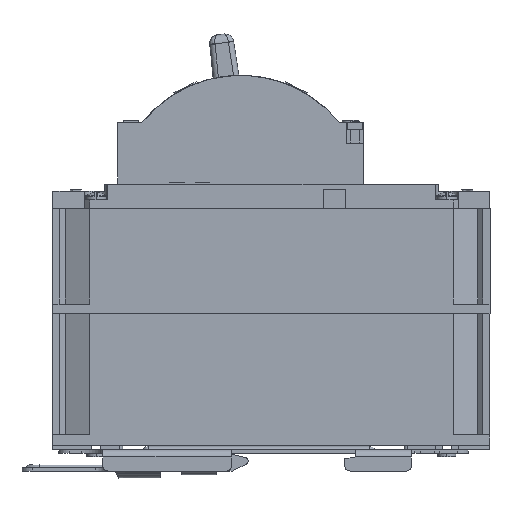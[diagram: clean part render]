
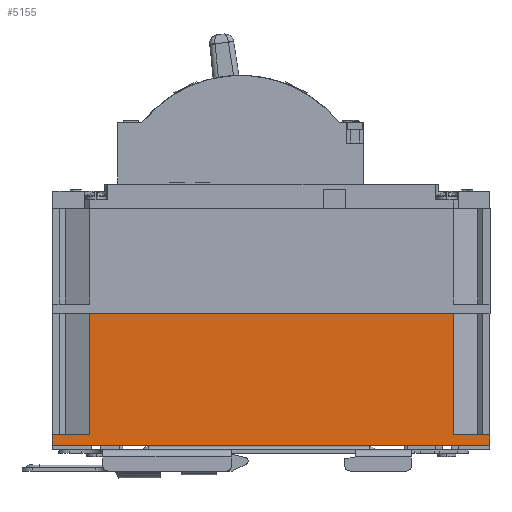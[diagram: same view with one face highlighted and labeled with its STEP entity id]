
A CAD part, left-side view. The second image highlights one B-rep face of the part: STEP entity #5155.
In plain terms, the highlighted planar face has unit normal (1, 0, 0).
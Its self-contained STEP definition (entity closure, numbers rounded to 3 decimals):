
#990 = CARTESIAN_POINT ( 'NONE',  ( -43.25, 63.511, -15.902 ) ) ;
#991 = DIRECTION ( 'NONE',  ( 0., 1., 0. ) ) ;
#992 = DIRECTION ( 'NONE',  ( 1., 0., 0. ) ) ;
#1356 = PLANE ( 'NONE',  #4795 ) ;
#4795 = AXIS2_PLACEMENT_3D ( 'NONE', #990, #992, #991 ) ;
#5155 = ADVANCED_FACE ( 'NONE', ( #34941 ), #1356, .T. ) ;
#34941 = FACE_OUTER_BOUND ( 'NONE', #47506, .T. ) ;
#36137 = CARTESIAN_POINT ( 'NONE',  ( -43.25, -50.589, -15.902 ) ) ;
#36280 = CARTESIAN_POINT ( 'NONE',  ( -43.25, -50.589, -50.402 ) ) ;
#36293 = CARTESIAN_POINT ( 'NONE',  ( -43.25, -61.089, -50.402 ) ) ;
#36294 = CARTESIAN_POINT ( 'NONE',  ( -43.25, -61.089, -53.402 ) ) ;
#36295 = CARTESIAN_POINT ( 'NONE',  ( -43.25, 63.511, -53.402 ) ) ;
#36296 = CARTESIAN_POINT ( 'NONE',  ( -43.25, 63.511, -50.402 ) ) ;
#36297 = CARTESIAN_POINT ( 'NONE',  ( -43.25, 53.011, -50.402 ) ) ;
#36298 = CARTESIAN_POINT ( 'NONE',  ( -43.25, 53.011, -15.902 ) ) ;
#44650 = EDGE_CURVE ( 'NONE', #115097, #115114, #104721, .T. ) ;
#44651 = EDGE_CURVE ( 'NONE', #114811, #115097, #104719, .T. ) ;
#44652 = EDGE_CURVE ( 'NONE', #115114, #115116, #104725, .T. ) ;
#44653 = EDGE_CURVE ( 'NONE', #115116, #115118, #104727, .T. ) ;
#44654 = EDGE_CURVE ( 'NONE', #115118, #115121, #104729, .T. ) ;
#44655 = EDGE_CURVE ( 'NONE', #115121, #115124, #104731, .T. ) ;
#44657 = EDGE_CURVE ( 'NONE', #115124, #115127, #104733, .T. ) ;
#44660 = EDGE_CURVE ( 'NONE', #115127, #114811, #104736, .T. ) ;
#45934 = ORIENTED_EDGE ( 'NONE', *, *, #44650, .T. ) ;
#45936 = ORIENTED_EDGE ( 'NONE', *, *, #44660, .T. ) ;
#45941 = ORIENTED_EDGE ( 'NONE', *, *, #44654, .T. ) ;
#45944 = ORIENTED_EDGE ( 'NONE', *, *, #44652, .T. ) ;
#45945 = ORIENTED_EDGE ( 'NONE', *, *, #44655, .T. ) ;
#45950 = ORIENTED_EDGE ( 'NONE', *, *, #44653, .T. ) ;
#45952 = ORIENTED_EDGE ( 'NONE', *, *, #44657, .T. ) ;
#46241 = ORIENTED_EDGE ( 'NONE', *, *, #44651, .T. ) ;
#47506 = EDGE_LOOP ( 'NONE', ( #46241, #45934, #45944, #45950, #45941, #45945, #45952, #45936 ) ) ;
#104719 = LINE ( 'NONE', #109600, #104726 ) ;
#104721 = LINE ( 'NONE', #109619, #104724 ) ;
#104724 = VECTOR ( 'NONE', #109621, 1000. ) ;
#104725 = LINE ( 'NONE', #109623, #104728 ) ;
#104726 = VECTOR ( 'NONE', #109622, 1000. ) ;
#104727 = LINE ( 'NONE', #109625, #104730 ) ;
#104728 = VECTOR ( 'NONE', #109624, 1000. ) ;
#104729 = LINE ( 'NONE', #109627, #104732 ) ;
#104730 = VECTOR ( 'NONE', #109626, 1000. ) ;
#104731 = LINE ( 'NONE', #109629, #104734 ) ;
#104732 = VECTOR ( 'NONE', #109628, 1000. ) ;
#104733 = LINE ( 'NONE', #109631, #104738 ) ;
#104734 = VECTOR ( 'NONE', #109630, 1000. ) ;
#104736 = LINE ( 'NONE', #109633, #104742 ) ;
#104738 = VECTOR ( 'NONE', #109632, 1000. ) ;
#104742 = VECTOR ( 'NONE', #109634, 1000. ) ;
#109600 = CARTESIAN_POINT ( 'NONE',  ( -43.25, -50.589, -15.902 ) ) ;
#109619 = CARTESIAN_POINT ( 'NONE',  ( -43.25, 63.511, -50.402 ) ) ;
#109621 = DIRECTION ( 'NONE',  ( 0., -1., 0. ) ) ;
#109622 = DIRECTION ( 'NONE',  ( 0., 0., -1. ) ) ;
#109623 = CARTESIAN_POINT ( 'NONE',  ( -43.25, -61.089, -15.902 ) ) ;
#109624 = DIRECTION ( 'NONE',  ( 0., 0., -1. ) ) ;
#109625 = CARTESIAN_POINT ( 'NONE',  ( -43.25, 63.511, -53.402 ) ) ;
#109626 = DIRECTION ( 'NONE',  ( 0., 1., 0. ) ) ;
#109627 = CARTESIAN_POINT ( 'NONE',  ( -43.25, 63.511, -15.902 ) ) ;
#109628 = DIRECTION ( 'NONE',  ( 0., 0., 1. ) ) ;
#109629 = CARTESIAN_POINT ( 'NONE',  ( -43.25, 63.511, -50.402 ) ) ;
#109630 = DIRECTION ( 'NONE',  ( 0., -1., 0. ) ) ;
#109631 = CARTESIAN_POINT ( 'NONE',  ( -43.25, 53.011, -15.902 ) ) ;
#109632 = DIRECTION ( 'NONE',  ( 0., 0., 1. ) ) ;
#109633 = CARTESIAN_POINT ( 'NONE',  ( -43.25, 63.511, -15.902 ) ) ;
#109634 = DIRECTION ( 'NONE',  ( 0., -1., 0. ) ) ;
#114811 = VERTEX_POINT ( 'NONE', #36137 ) ;
#115097 = VERTEX_POINT ( 'NONE', #36280 ) ;
#115114 = VERTEX_POINT ( 'NONE', #36293 ) ;
#115116 = VERTEX_POINT ( 'NONE', #36294 ) ;
#115118 = VERTEX_POINT ( 'NONE', #36295 ) ;
#115121 = VERTEX_POINT ( 'NONE', #36296 ) ;
#115124 = VERTEX_POINT ( 'NONE', #36297 ) ;
#115127 = VERTEX_POINT ( 'NONE', #36298 ) ;
